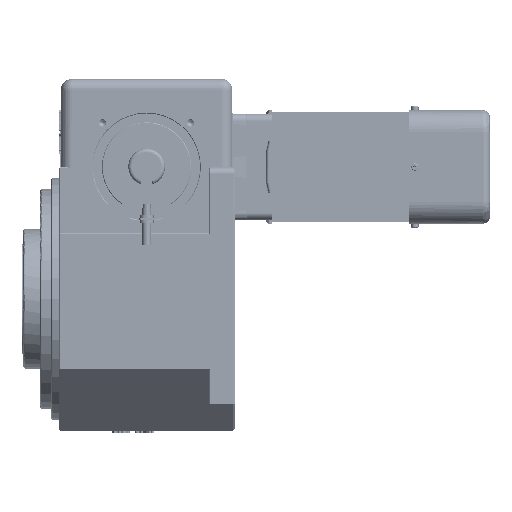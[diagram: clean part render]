
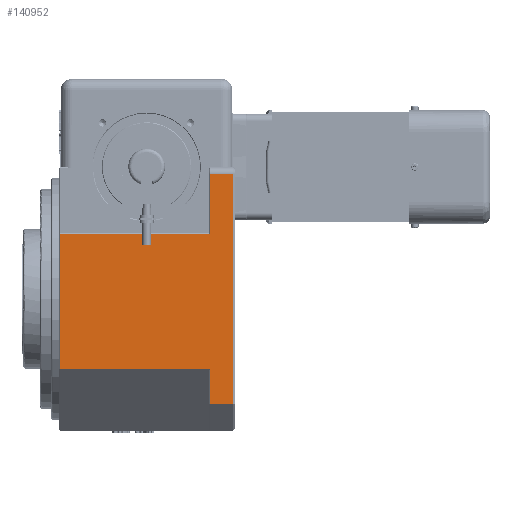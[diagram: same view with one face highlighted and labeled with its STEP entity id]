
A CAD part, left-side view. The second image highlights one B-rep face of the part: STEP entity #140952.
In plain terms, the highlighted planar face has unit normal (-1, 0, 0).
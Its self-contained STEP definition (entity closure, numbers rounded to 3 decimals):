
#4451 = CARTESIAN_POINT ( 'NONE',  ( -180., 2., 170. ) ) ;
#5516 = EDGE_CURVE ( 'NONE', #210245, #189385, #114060, .T. ) ;
#12312 = LINE ( 'NONE', #96586, #62755 ) ;
#12542 = EDGE_CURVE ( 'NONE', #108287, #107223, #98950, .T. ) ;
#29851 = DIRECTION ( 'NONE',  ( 0., 0., -1. ) ) ;
#34774 = LINE ( 'NONE', #186855, #124966 ) ;
#36231 = LINE ( 'NONE', #74221, #211313 ) ;
#39276 = ORIENTED_EDGE ( 'NONE', *, *, #195667, .T. ) ;
#59152 = VECTOR ( 'NONE', #119414, 1000. ) ;
#59433 = CARTESIAN_POINT ( 'NONE',  ( -180., 33., 170. ) ) ;
#62755 = VECTOR ( 'NONE', #131262, 1000. ) ;
#63661 = VECTOR ( 'NONE', #208903, 1000. ) ;
#69068 = EDGE_CURVE ( 'NONE', #144985, #218566, #36231, .T. ) ;
#73125 = EDGE_CURVE ( 'NONE', #107223, #176515, #34774, .T. ) ;
#74221 = CARTESIAN_POINT ( 'NONE',  ( -180., 33., 170. ) ) ;
#80837 = AXIS2_PLACEMENT_3D ( 'NONE', #163959, #131324, #29851 ) ;
#96586 = CARTESIAN_POINT ( 'NONE',  ( -180., 240., -144. ) ) ;
#98130 = CARTESIAN_POINT ( 'NONE',  ( -180., 33., 88. ) ) ;
#98950 = LINE ( 'NONE', #100242, #59152 ) ;
#99755 = DIRECTION ( 'NONE',  ( 0., -1., 0. ) ) ;
#100242 = CARTESIAN_POINT ( 'NONE',  ( -180., 33., 170. ) ) ;
#103362 = CARTESIAN_POINT ( 'NONE',  ( -180., 238., -96. ) ) ;
#103524 = LINE ( 'NONE', #114600, #188304 ) ;
#104926 = ORIENTED_EDGE ( 'NONE', *, *, #170899, .F. ) ;
#107223 = VERTEX_POINT ( 'NONE', #59433 ) ;
#107371 = CARTESIAN_POINT ( 'NONE',  ( -180., 238., 170. ) ) ;
#108287 = VERTEX_POINT ( 'NONE', #98130 ) ;
#114060 = LINE ( 'NONE', #107371, #63661 ) ;
#114600 = CARTESIAN_POINT ( 'NONE',  ( -180., 240., -96. ) ) ;
#115103 = CARTESIAN_POINT ( 'NONE',  ( -180., 33., -96. ) ) ;
#116460 = ORIENTED_EDGE ( 'NONE', *, *, #5516, .F. ) ;
#116779 = VECTOR ( 'NONE', #160870, 1000. ) ;
#118707 = DIRECTION ( 'NONE',  ( 0., -1., 0. ) ) ;
#119414 = DIRECTION ( 'NONE',  ( 0., 0., 1. ) ) ;
#124966 = VECTOR ( 'NONE', #118707, 1000. ) ;
#130129 = CARTESIAN_POINT ( 'NONE',  ( -180., 2., -144. ) ) ;
#131262 = DIRECTION ( 'NONE',  ( 0., -1., 0. ) ) ;
#131324 = DIRECTION ( 'NONE',  ( 1., 0., 0. ) ) ;
#131563 = DIRECTION ( 'NONE',  ( 0., 1., 0. ) ) ;
#134349 = ORIENTED_EDGE ( 'NONE', *, *, #214097, .F. ) ;
#135446 = CARTESIAN_POINT ( 'NONE',  ( -180., 33., -144. ) ) ;
#140952 = ADVANCED_FACE ( 'NONE', ( #152522 ), #215939, .F. ) ;
#144985 = VERTEX_POINT ( 'NONE', #135446 ) ;
#145132 = CARTESIAN_POINT ( 'NONE',  ( -180., 238., 88. ) ) ;
#148591 = ORIENTED_EDGE ( 'NONE', *, *, #69068, .F. ) ;
#151133 = LINE ( 'NONE', #218290, #180313 ) ;
#152522 = FACE_OUTER_BOUND ( 'NONE', #218005, .T. ) ;
#158706 = EDGE_CURVE ( 'NONE', #189385, #108287, #151133, .T. ) ;
#160870 = DIRECTION ( 'NONE',  ( 0., 0., -1. ) ) ;
#163959 = CARTESIAN_POINT ( 'NONE',  ( -180., 240., 170. ) ) ;
#164642 = ORIENTED_EDGE ( 'NONE', *, *, #158706, .F. ) ;
#166803 = ORIENTED_EDGE ( 'NONE', *, *, #12542, .F. ) ;
#167838 = VERTEX_POINT ( 'NONE', #130129 ) ;
#170899 = EDGE_CURVE ( 'NONE', #176515, #167838, #206974, .T. ) ;
#175678 = DIRECTION ( 'NONE',  ( 0., 0., 1. ) ) ;
#176515 = VERTEX_POINT ( 'NONE', #4451 ) ;
#180313 = VECTOR ( 'NONE', #99755, 1000. ) ;
#183404 = ORIENTED_EDGE ( 'NONE', *, *, #73125, .F. ) ;
#186855 = CARTESIAN_POINT ( 'NONE',  ( -180., 240., 170. ) ) ;
#188304 = VECTOR ( 'NONE', #131563, 1000. ) ;
#189385 = VERTEX_POINT ( 'NONE', #145132 ) ;
#195667 = EDGE_CURVE ( 'NONE', #144985, #167838, #12312, .T. ) ;
#206974 = LINE ( 'NONE', #212144, #116779 ) ;
#208903 = DIRECTION ( 'NONE',  ( 0., 0., 1. ) ) ;
#210245 = VERTEX_POINT ( 'NONE', #103362 ) ;
#211313 = VECTOR ( 'NONE', #175678, 1000. ) ;
#212144 = CARTESIAN_POINT ( 'NONE',  ( -180., 2., 170. ) ) ;
#214097 = EDGE_CURVE ( 'NONE', #218566, #210245, #103524, .T. ) ;
#215939 = PLANE ( 'NONE',  #80837 ) ;
#218005 = EDGE_LOOP ( 'NONE', ( #39276, #104926, #183404, #166803, #164642, #116460, #134349, #148591 ) ) ;
#218290 = CARTESIAN_POINT ( 'NONE',  ( -180., 240., 88. ) ) ;
#218566 = VERTEX_POINT ( 'NONE', #115103 ) ;
